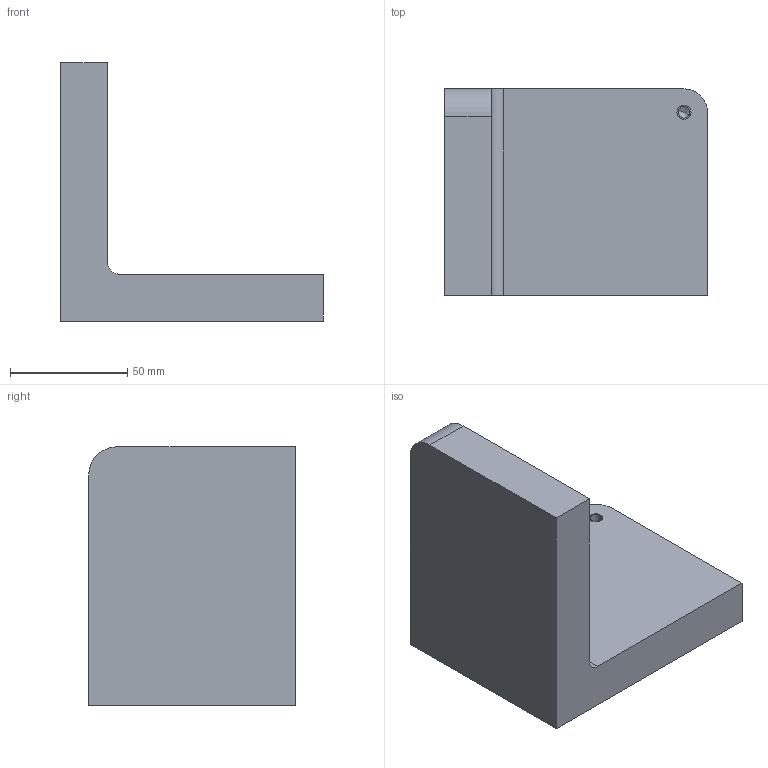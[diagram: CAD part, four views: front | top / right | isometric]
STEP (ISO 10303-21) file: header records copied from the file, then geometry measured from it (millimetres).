
FILE_DESCRIPTION(('CATIA V5 STEP Exchange'),'2;1');
FILE_NAME('C:\_Andres\UNIVERSIDAD\IQS\ASIGNATURAS\DAO\EXF\EXF-16172c\2inicio\Esteba_Torres_Ej01_v12.stp','2017-03-05T15:11:06+00:00',('none'),('none'),'CATIA Version 5-6 Release 2014 SP1 HF18','CATIA V5 STEP AP203','none');
FILE_SCHEMA(('CONFIG_CONTROL_DESIGN'));
Length unit declared in the file: millimetre
Products named in the file (1): Esteba_Torres_Ej01_v12
Bounding box: 112 x 88 x 110 mm (x, y, z)
Volume: 354632.1 mm3; surface area: 47156.6 mm2
Topology: 1 solids, 2 shells, 17 faces, 43 edges, 27 vertices
Faces by surface type: plane 8, cylinder 7, cone 2
Entity records: 513 total; most frequent: CARTESIAN_POINT 83, ORIENTED_EDGE 78, DIRECTION 69, EDGE_CURVE 41, AXIS2_PLACEMENT_3D 29, VECTOR 27, LINE 27, VERTEX_POINT 27
